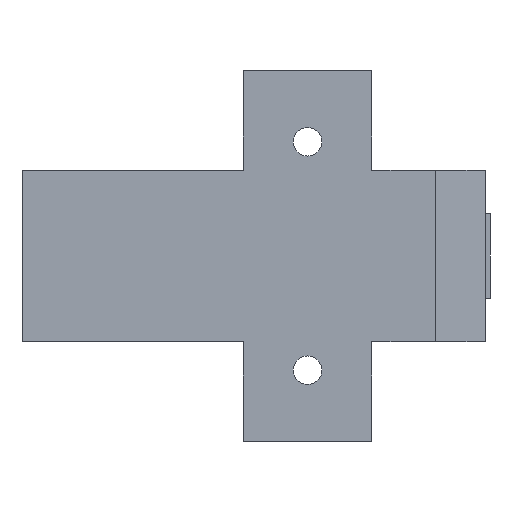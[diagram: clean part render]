
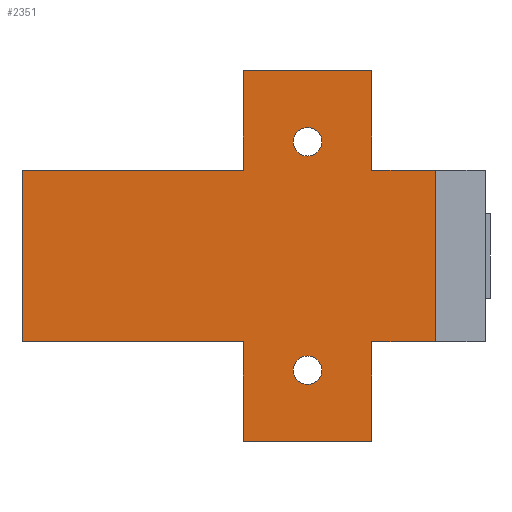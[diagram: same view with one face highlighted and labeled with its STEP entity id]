
A CAD part, left-side view. The second image highlights one B-rep face of the part: STEP entity #2351.
In plain terms, the highlighted planar face has unit normal (-1, 0, 0).
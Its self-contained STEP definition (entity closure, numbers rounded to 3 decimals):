
#45 = VECTOR ( 'NONE', #822, 1000. ) ;
#51 = CIRCLE ( 'NONE', #316, 2. ) ;
#92 = VECTOR ( 'NONE', #827, 1000. ) ;
#160 = VECTOR ( 'NONE', #830, 1000. ) ;
#187 = VECTOR ( 'NONE', #803, 1000. ) ;
#209 = CIRCLE ( 'NONE', #335, 2. ) ;
#232 = VECTOR ( 'NONE', #825, 1000. ) ;
#258 = VECTOR ( 'NONE', #819, 1000. ) ;
#271 = VECTOR ( 'NONE', #811, 1000. ) ;
#294 = VECTOR ( 'NONE', #815, 1000. ) ;
#315 = VECTOR ( 'NONE', #833, 1000. ) ;
#316 = AXIS2_PLACEMENT_3D ( 'NONE', #3082, #3083, #3084 ) ;
#318 = AXIS2_PLACEMENT_3D ( 'NONE', #1720, #1715, #1724 ) ;
#335 = AXIS2_PLACEMENT_3D ( 'NONE', #839, #840, #841 ) ;
#339 = CIRCLE ( 'NONE', #362, 2. ) ;
#356 = VECTOR ( 'NONE', #787, 1000. ) ;
#362 = AXIS2_PLACEMENT_3D ( 'NONE', #835, #836, #837 ) ;
#363 = CIRCLE ( 'NONE', #380, 2. ) ;
#380 = AXIS2_PLACEMENT_3D ( 'NONE', #3054, #3055, #3056 ) ;
#399 = VECTOR ( 'NONE', #808, 1000. ) ;
#432 = VECTOR ( 'NONE', #817, 1000. ) ;
#479 = VERTEX_POINT ( 'NONE', #2852 ) ;
#785 = LINE ( 'NONE', #786, #356 ) ;
#786 = CARTESIAN_POINT ( 'NONE',  ( 0., -12.007, -12. ) ) ;
#787 = DIRECTION ( 'NONE',  ( 0., 1., 0. ) ) ;
#792 = LINE ( 'NONE', #801, #187 ) ;
#799 = LINE ( 'NONE', #807, #399 ) ;
#801 = CARTESIAN_POINT ( 'NONE',  ( 0., -12.007, 12. ) ) ;
#802 = LINE ( 'NONE', #816, #432 ) ;
#803 = DIRECTION ( 'NONE',  ( 0., 1., 0. ) ) ;
#805 = LINE ( 'NONE', #818, #258 ) ;
#807 = CARTESIAN_POINT ( 'NONE',  ( 0., 9., -26. ) ) ;
#808 = DIRECTION ( 'NONE',  ( 0., 0., 1. ) ) ;
#809 = LINE ( 'NONE', #810, #271 ) ;
#810 = CARTESIAN_POINT ( 'NONE',  ( 0., 40., -12. ) ) ;
#811 = DIRECTION ( 'NONE',  ( 0., 0., 1. ) ) ;
#812 = LINE ( 'NONE', #814, #294 ) ;
#813 = LINE ( 'NONE', #826, #92 ) ;
#814 = CARTESIAN_POINT ( 'NONE',  ( 0., 9., -26. ) ) ;
#815 = DIRECTION ( 'NONE',  ( 0., 0., 1. ) ) ;
#816 = CARTESIAN_POINT ( 'NONE',  ( 0., -9., -26. ) ) ;
#817 = DIRECTION ( 'NONE',  ( 0., 1., 0. ) ) ;
#818 = CARTESIAN_POINT ( 'NONE',  ( 0., -9., -26. ) ) ;
#819 = DIRECTION ( 'NONE',  ( 0., 0., 1. ) ) ;
#820 = LINE ( 'NONE', #821, #45 ) ;
#821 = CARTESIAN_POINT ( 'NONE',  ( 0., -12.007, -12. ) ) ;
#822 = DIRECTION ( 'NONE',  ( 0., 1., 0. ) ) ;
#823 = LINE ( 'NONE', #824, #232 ) ;
#824 = CARTESIAN_POINT ( 'NONE',  ( 0., -17.9, 30.452 ) ) ;
#825 = DIRECTION ( 'NONE',  ( 0., 0., -1. ) ) ;
#826 = CARTESIAN_POINT ( 'NONE',  ( 0., -12.007, 12. ) ) ;
#827 = DIRECTION ( 'NONE',  ( 0., 1., 0. ) ) ;
#828 = LINE ( 'NONE', #829, #160 ) ;
#829 = CARTESIAN_POINT ( 'NONE',  ( 0., -9., -26. ) ) ;
#830 = DIRECTION ( 'NONE',  ( 0., 0., 1. ) ) ;
#831 = LINE ( 'NONE', #832, #315 ) ;
#832 = CARTESIAN_POINT ( 'NONE',  ( 0., -9., 26. ) ) ;
#833 = DIRECTION ( 'NONE',  ( 0., 1., 0. ) ) ;
#835 = CARTESIAN_POINT ( 'NONE',  ( 0., 0., 16. ) ) ;
#836 = DIRECTION ( 'NONE',  ( 1., 0., 0. ) ) ;
#837 = DIRECTION ( 'NONE',  ( 0., 0., -1. ) ) ;
#839 = CARTESIAN_POINT ( 'NONE',  ( 0., 0., -16. ) ) ;
#840 = DIRECTION ( 'NONE',  ( -1., 0., 0. ) ) ;
#841 = DIRECTION ( 'NONE',  ( 0., 0., 1. ) ) ;
#1011 = VERTEX_POINT ( 'NONE', #2857 ) ;
#1013 = VERTEX_POINT ( 'NONE', #2859 ) ;
#1014 = VERTEX_POINT ( 'NONE', #2860 ) ;
#1015 = VERTEX_POINT ( 'NONE', #2861 ) ;
#1023 = VERTEX_POINT ( 'NONE', #2869 ) ;
#1031 = VERTEX_POINT ( 'NONE', #2877 ) ;
#1035 = VERTEX_POINT ( 'NONE', #2881 ) ;
#1154 = CARTESIAN_POINT ( 'NONE',  ( 0., 9., 26. ) ) ;
#1303 = EDGE_CURVE ( 'NONE', #3124, #479, #363, .T. ) ;
#1312 = EDGE_CURVE ( 'NONE', #3121, #3118, #51, .T. ) ;
#1713 = FACE_BOUND ( 'NONE', #2620, .T. ) ;
#1715 = DIRECTION ( 'NONE',  ( 1., 0., 0. ) ) ;
#1719 = FACE_OUTER_BOUND ( 'NONE', #2684, .T. ) ;
#1720 = CARTESIAN_POINT ( 'NONE',  ( 0., -12.007, -12. ) ) ;
#1722 = FACE_BOUND ( 'NONE', #2683, .T. ) ;
#1723 = PLANE ( 'NONE',  #318 ) ;
#1724 = DIRECTION ( 'NONE',  ( 0., 0., -1. ) ) ;
#1832 = CARTESIAN_POINT ( 'NONE',  ( 0., 0., 14. ) ) ;
#1848 = CARTESIAN_POINT ( 'NONE',  ( 0., 0., 18. ) ) ;
#1851 = CARTESIAN_POINT ( 'NONE',  ( 0., 0., -18. ) ) ;
#1891 = CARTESIAN_POINT ( 'NONE',  ( 0., 40., 12. ) ) ;
#1892 = CARTESIAN_POINT ( 'NONE',  ( 0., 40., -12. ) ) ;
#1905 = CARTESIAN_POINT ( 'NONE',  ( 0., 9., -12. ) ) ;
#1939 = CARTESIAN_POINT ( 'NONE',  ( 0., -9., 26. ) ) ;
#1992 = ORIENTED_EDGE ( 'NONE', *, *, #2201, .F. ) ;
#1993 = ORIENTED_EDGE ( 'NONE', *, *, #2199, .T. ) ;
#1994 = ORIENTED_EDGE ( 'NONE', *, *, #2202, .F. ) ;
#1995 = ORIENTED_EDGE ( 'NONE', *, *, #2194, .F. ) ;
#1996 = ORIENTED_EDGE ( 'NONE', *, *, #2203, .F. ) ;
#1997 = ORIENTED_EDGE ( 'NONE', *, *, #2204, .F. ) ;
#1998 = ORIENTED_EDGE ( 'NONE', *, *, #2205, .T. ) ;
#1999 = ORIENTED_EDGE ( 'NONE', *, *, #2206, .F. ) ;
#2000 = ORIENTED_EDGE ( 'NONE', *, *, #2207, .F. ) ;
#2001 = ORIENTED_EDGE ( 'NONE', *, *, #2208, .T. ) ;
#2002 = ORIENTED_EDGE ( 'NONE', *, *, #2209, .T. ) ;
#2003 = ORIENTED_EDGE ( 'NONE', *, *, #2210, .T. ) ;
#2004 = ORIENTED_EDGE ( 'NONE', *, *, #2211, .T. ) ;
#2005 = ORIENTED_EDGE ( 'NONE', *, *, #1312, .T. ) ;
#2006 = ORIENTED_EDGE ( 'NONE', *, *, #1303, .F. ) ;
#2007 = ORIENTED_EDGE ( 'NONE', *, *, #2212, .F. ) ;
#2194 = EDGE_CURVE ( 'NONE', #3178, #3165, #785, .T. ) ;
#2199 = EDGE_CURVE ( 'NONE', #1013, #3164, #792, .T. ) ;
#2201 = EDGE_CURVE ( 'NONE', #1013, #3259, #799, .T. ) ;
#2202 = EDGE_CURVE ( 'NONE', #3165, #3164, #809, .T. ) ;
#2203 = EDGE_CURVE ( 'NONE', #1014, #3178, #812, .T. ) ;
#2204 = EDGE_CURVE ( 'NONE', #1035, #1014, #802, .T. ) ;
#2205 = EDGE_CURVE ( 'NONE', #1035, #1011, #805, .T. ) ;
#2206 = EDGE_CURVE ( 'NONE', #1023, #1011, #820, .T. ) ;
#2207 = EDGE_CURVE ( 'NONE', #1031, #1023, #823, .T. ) ;
#2208 = EDGE_CURVE ( 'NONE', #1031, #1015, #813, .T. ) ;
#2209 = EDGE_CURVE ( 'NONE', #1015, #3213, #828, .T. ) ;
#2210 = EDGE_CURVE ( 'NONE', #3213, #3259, #831, .T. ) ;
#2211 = EDGE_CURVE ( 'NONE', #3118, #3121, #339, .T. ) ;
#2212 = EDGE_CURVE ( 'NONE', #479, #3124, #209, .T. ) ;
#2351 = ADVANCED_FACE ( 'NONE', ( #1719, #1713, #1722 ), #1723, .F. ) ;
#2620 = EDGE_LOOP ( 'NONE', ( #2004, #2005 ) ) ;
#2683 = EDGE_LOOP ( 'NONE', ( #2006, #2007 ) ) ;
#2684 = EDGE_LOOP ( 'NONE', ( #1992, #1993, #1994, #1995, #1996, #1997, #1998, #1999, #2000, #2001, #2002, #2003 ) ) ;
#2852 = CARTESIAN_POINT ( 'NONE',  ( 0., 0., -14. ) ) ;
#2857 = CARTESIAN_POINT ( 'NONE',  ( 0., -9., -12. ) ) ;
#2859 = CARTESIAN_POINT ( 'NONE',  ( 0., 9., 12. ) ) ;
#2860 = CARTESIAN_POINT ( 'NONE',  ( 0., 9., -26. ) ) ;
#2861 = CARTESIAN_POINT ( 'NONE',  ( 0., -9., 12. ) ) ;
#2869 = CARTESIAN_POINT ( 'NONE',  ( 0., -17.9, -12. ) ) ;
#2877 = CARTESIAN_POINT ( 'NONE',  ( 0., -17.9, 12. ) ) ;
#2881 = CARTESIAN_POINT ( 'NONE',  ( 0., -9., -26. ) ) ;
#3054 = CARTESIAN_POINT ( 'NONE',  ( 0., 0., -16. ) ) ;
#3055 = DIRECTION ( 'NONE',  ( -1., 0., 0. ) ) ;
#3056 = DIRECTION ( 'NONE',  ( 0., 0., 1. ) ) ;
#3082 = CARTESIAN_POINT ( 'NONE',  ( 0., 0., 16. ) ) ;
#3083 = DIRECTION ( 'NONE',  ( 1., 0., 0. ) ) ;
#3084 = DIRECTION ( 'NONE',  ( 0., 0., -1. ) ) ;
#3118 = VERTEX_POINT ( 'NONE', #1832 ) ;
#3121 = VERTEX_POINT ( 'NONE', #1848 ) ;
#3124 = VERTEX_POINT ( 'NONE', #1851 ) ;
#3164 = VERTEX_POINT ( 'NONE', #1891 ) ;
#3165 = VERTEX_POINT ( 'NONE', #1892 ) ;
#3178 = VERTEX_POINT ( 'NONE', #1905 ) ;
#3213 = VERTEX_POINT ( 'NONE', #1939 ) ;
#3259 = VERTEX_POINT ( 'NONE', #1154 ) ;
